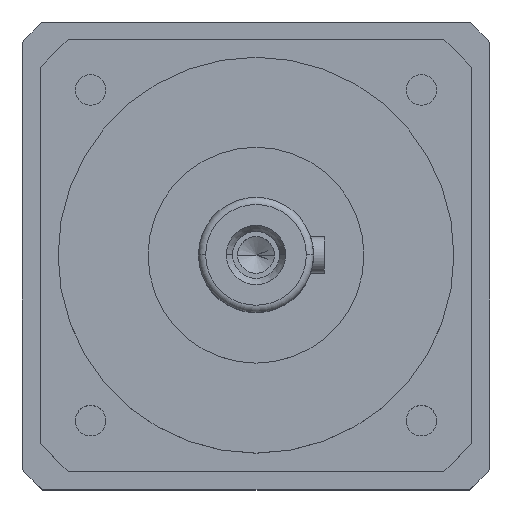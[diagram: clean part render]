
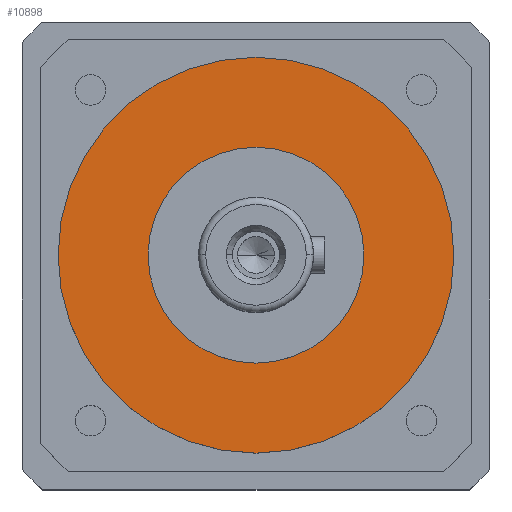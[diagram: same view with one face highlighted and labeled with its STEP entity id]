
A CAD part, top view. The second image highlights one B-rep face of the part: STEP entity #10898.
In plain terms, the highlighted planar face has unit normal (0, 0, 1).
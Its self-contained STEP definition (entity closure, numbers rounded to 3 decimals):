
#1225 = CIRCLE ( 'NONE', #6723, 30. ) ;
#1285 = EDGE_CURVE ( 'NONE', #4672, #16915, #3840, .T. ) ;
#1349 = CARTESIAN_POINT ( 'NONE',  ( 0., 0., -52. ) ) ;
#1591 = AXIS2_PLACEMENT_3D ( 'NONE', #7422, #19945, #9193 ) ;
#2193 = ORIENTED_EDGE ( 'NONE', *, *, #1285, .T. ) ;
#2548 = CARTESIAN_POINT ( 'NONE',  ( 0., 0., -52. ) ) ;
#3214 = DIRECTION ( 'NONE',  ( 1., 0., 0. ) ) ;
#3840 = CIRCLE ( 'NONE', #8558, 55. ) ;
#4374 = DIRECTION ( 'NONE',  ( 1., 0., 0. ) ) ;
#4624 = FACE_BOUND ( 'NONE', #16062, .T. ) ;
#4672 = VERTEX_POINT ( 'NONE', #23180 ) ;
#5756 = DIRECTION ( 'NONE',  ( 1., 0., 0. ) ) ;
#6723 = AXIS2_PLACEMENT_3D ( 'NONE', #1349, #14011, #3214 ) ;
#7422 = CARTESIAN_POINT ( 'NONE',  ( 0., 0., -52. ) ) ;
#8344 = DIRECTION ( 'NONE',  ( 0., 0., -1. ) ) ;
#8558 = AXIS2_PLACEMENT_3D ( 'NONE', #15929, #13036, #5756 ) ;
#9193 = DIRECTION ( 'NONE',  ( 1., 0., 0. ) ) ;
#10013 = CARTESIAN_POINT ( 'NONE',  ( -30., 0., -52. ) ) ;
#10141 = EDGE_CURVE ( 'NONE', #15913, #21058, #1225, .T. ) ;
#10446 = CARTESIAN_POINT ( 'NONE',  ( 55., 0., -52. ) ) ;
#10898 = ADVANCED_FACE ( 'NONE', ( #4624, #23169 ), #19093, .F. ) ;
#11266 = CIRCLE ( 'NONE', #1591, 55. ) ;
#12509 = AXIS2_PLACEMENT_3D ( 'NONE', #15513, #8344, #20884 ) ;
#12560 = CARTESIAN_POINT ( 'NONE',  ( 30., 0., -52. ) ) ;
#13036 = DIRECTION ( 'NONE',  ( 0., 0., 1. ) ) ;
#14011 = DIRECTION ( 'NONE',  ( 0., 0., 1. ) ) ;
#14621 = EDGE_LOOP ( 'NONE', ( #21926, #2193 ) ) ;
#14980 = ORIENTED_EDGE ( 'NONE', *, *, #10141, .F. ) ;
#15167 = DIRECTION ( 'NONE',  ( 0., 0., 1. ) ) ;
#15513 = CARTESIAN_POINT ( 'NONE',  ( 0., 30., -52. ) ) ;
#15913 = VERTEX_POINT ( 'NONE', #12560 ) ;
#15929 = CARTESIAN_POINT ( 'NONE',  ( 0., 0., -52. ) ) ;
#16062 = EDGE_LOOP ( 'NONE', ( #14980, #22899 ) ) ;
#16915 = VERTEX_POINT ( 'NONE', #10446 ) ;
#17224 = EDGE_CURVE ( 'NONE', #16915, #4672, #11266, .T. ) ;
#17350 = EDGE_CURVE ( 'NONE', #21058, #15913, #22435, .T. ) ;
#19093 = PLANE ( 'NONE',  #12509 ) ;
#19945 = DIRECTION ( 'NONE',  ( 0., 0., 1. ) ) ;
#20147 = AXIS2_PLACEMENT_3D ( 'NONE', #2548, #15167, #4374 ) ;
#20884 = DIRECTION ( 'NONE',  ( -1., 0., 0. ) ) ;
#21058 = VERTEX_POINT ( 'NONE', #10013 ) ;
#21926 = ORIENTED_EDGE ( 'NONE', *, *, #17224, .T. ) ;
#22435 = CIRCLE ( 'NONE', #20147, 30. ) ;
#22899 = ORIENTED_EDGE ( 'NONE', *, *, #17350, .F. ) ;
#23169 = FACE_OUTER_BOUND ( 'NONE', #14621, .T. ) ;
#23180 = CARTESIAN_POINT ( 'NONE',  ( -55., 0., -52. ) ) ;
